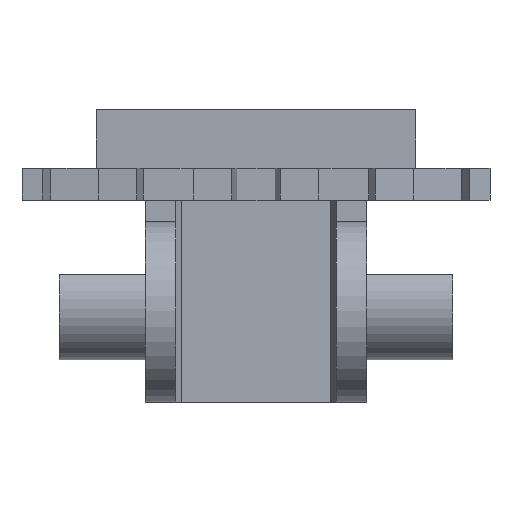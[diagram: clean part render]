
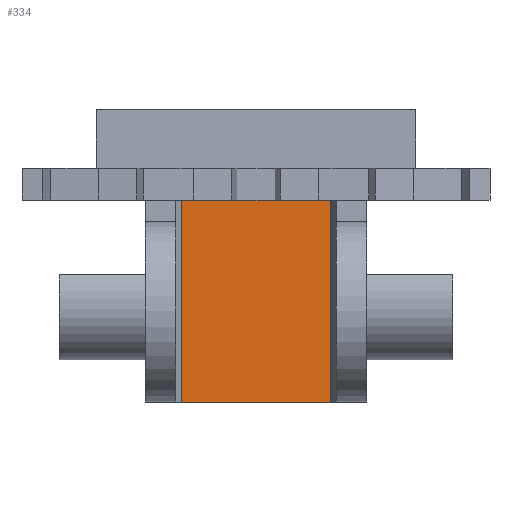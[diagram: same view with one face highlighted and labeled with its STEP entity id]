
A CAD part, left-side view. The second image highlights one B-rep face of the part: STEP entity #334.
In plain terms, the highlighted planar face has unit normal (-1, 0, 0).
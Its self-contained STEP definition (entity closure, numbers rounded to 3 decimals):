
#38 = VERTEX_POINT ( 'NONE', #961 ) ;
#60 = VERTEX_POINT ( 'NONE', #1047 ) ;
#61 = EDGE_CURVE ( 'NONE', #38, #60, #983, .T. ) ;
#144 = EDGE_CURVE ( 'NONE', #182, #207, #1134, .T. ) ;
#182 = VERTEX_POINT ( 'NONE', #1008 ) ;
#207 = VERTEX_POINT ( 'NONE', #1879 ) ;
#333 = ORIENTED_EDGE ( 'NONE', *, *, #466, .T. ) ;
#334 = ADVANCED_FACE ( 'NONE', ( #1359 ), #1309, .F. ) ;
#335 = ORIENTED_EDGE ( 'NONE', *, *, #61, .F. ) ;
#427 = EDGE_LOOP ( 'NONE', ( #526, #333, #335, #597 ) ) ;
#466 = EDGE_CURVE ( 'NONE', #207, #60, #1630, .T. ) ;
#526 = ORIENTED_EDGE ( 'NONE', *, *, #144, .T. ) ;
#545 = EDGE_CURVE ( 'NONE', #38, #182, #1681, .T. ) ;
#597 = ORIENTED_EDGE ( 'NONE', *, *, #545, .T. ) ;
#961 = CARTESIAN_POINT ( 'NONE',  ( -0.003, -7.277, 14.1 ) ) ;
#983 = LINE ( 'NONE', #988, #987 ) ;
#986 = DIRECTION ( 'NONE',  ( 0., 1., 0. ) ) ;
#987 = VECTOR ( 'NONE', #986, 1000. ) ;
#988 = CARTESIAN_POINT ( 'NONE',  ( -0.003, -7.827, 14.1 ) ) ;
#1008 = CARTESIAN_POINT ( 'NONE',  ( -0.003, -7.277, 33.1 ) ) ;
#1047 = CARTESIAN_POINT ( 'NONE',  ( -0.003, 6.723, 14.1 ) ) ;
#1131 = DIRECTION ( 'NONE',  ( 0., 1., 0. ) ) ;
#1132 = VECTOR ( 'NONE', #1131, 1000. ) ;
#1133 = CARTESIAN_POINT ( 'NONE',  ( -0.003, -7.827, 33.1 ) ) ;
#1134 = LINE ( 'NONE', #1133, #1132 ) ;
#1275 = DIRECTION ( 'NONE',  ( 0., 0., -1. ) ) ;
#1276 = DIRECTION ( 'NONE',  ( 1., 0., 0. ) ) ;
#1309 = PLANE ( 'NONE',  #1317 ) ;
#1317 = AXIS2_PLACEMENT_3D ( 'NONE', #1318, #1276, #1275 ) ;
#1318 = CARTESIAN_POINT ( 'NONE',  ( -0.003, -7.827, 33.1 ) ) ;
#1359 = FACE_OUTER_BOUND ( 'NONE', #427, .T. ) ;
#1607 = VECTOR ( 'NONE', #1627, 1000. ) ;
#1608 = CARTESIAN_POINT ( 'NONE',  ( -0.003, 6.723, 14.1 ) ) ;
#1627 = DIRECTION ( 'NONE',  ( 0., 0., -1. ) ) ;
#1630 = LINE ( 'NONE', #1608, #1607 ) ;
#1678 = DIRECTION ( 'NONE',  ( 0., 0., 1. ) ) ;
#1679 = VECTOR ( 'NONE', #1678, 1000. ) ;
#1680 = CARTESIAN_POINT ( 'NONE',  ( -0.003, -7.277, 33.1 ) ) ;
#1681 = LINE ( 'NONE', #1680, #1679 ) ;
#1879 = CARTESIAN_POINT ( 'NONE',  ( -0.003, 6.723, 33.1 ) ) ;
